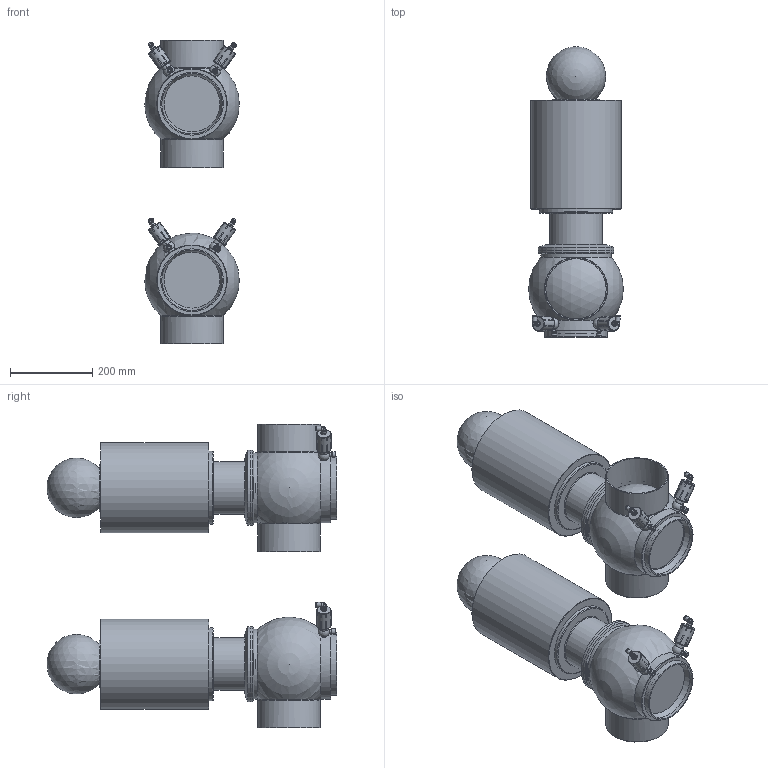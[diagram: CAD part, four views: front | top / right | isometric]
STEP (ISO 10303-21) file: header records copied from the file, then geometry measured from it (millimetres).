
FILE_DESCRIPTION(/* description */ (''),/* implementation_level */ '2;1');
FILE_NAME(/* name */ 'C:\Users\marz-m\Downloads\BZZAW3 3D STEP\BZAW3-DN152.4x2.77-SAL.stp',/* time_stamp */ '2018-09-27T08:17:39+02:00',/* author */ ('marz-m'),/* organization */ (''),/* preprocessor_version */ 'ST-DEVELOPER v17',/* originating_system */ 'Autodesk Inventor 2018',/* authorisation */ '');
FILE_SCHEMA (('AUTOMOTIVE_DESIGN { 1 0 10303 214 3 1 1 }'));
Length unit declared in the file: millimetre
Products named in the file (7): BZAW3-DN152.4x2.77-SAL; TRH5C0600BBA; SAGOMA-GIOTTO-; CIL134; TRH6C0600BBA; Assemblaggio-DN0100; Valvolina 3A
Assembly tree (12 placements, depth 2):
  BZAW3-DN152.4x2.77-SAL
    Valvolina 3A  x4
    SAGOMA-GIOTTO-  x2
    CIL134  x2
    Assemblaggio-DN0100  x2
    TRH5C0600BBA
    TRH6C0600BBA
Bounding box: 230 x 705.47 x 739.07 mm (x, y, z)
Volume: 38842226.9 mm3; surface area: 1537764.7 mm2
Topology: 12 solids, 12 shells, 621 faces, 1780 edges, 1248 vertices
Faces by surface type: plane 283, cylinder 187, cone 64, bspline 56, torus 19, sphere 12
Full cylindrical faces by diameter (mm): 2 x8, 6 x16, 7 x4, 8 x4, 8.1 x4, 10 x4, 11 x4, 11.5 x4, 12.918 x4, 13.157 x4, 14 x4, 15.9 x4, 16 x4, 22 x4, 35 x4, 113.8 x2, 128 x2, 136 x1, 146.86 x5, 152.4 x5, 171 x4, 178 x2, 183 x4, 219 x2
Entity records: 10527 total; most frequent: CARTESIAN_POINT 4112, DIRECTION 1283, ORIENTED_EDGE 1270, EDGE_CURVE 635, AXIS2_PLACEMENT_3D 532, VERTEX_POINT 452, CIRCLE 300, EDGE_LOOP 261
